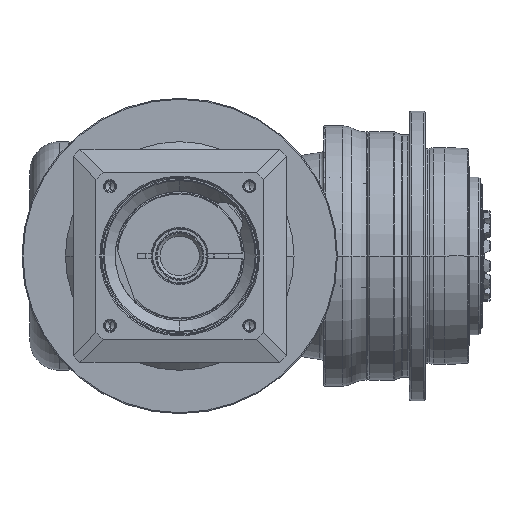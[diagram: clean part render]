
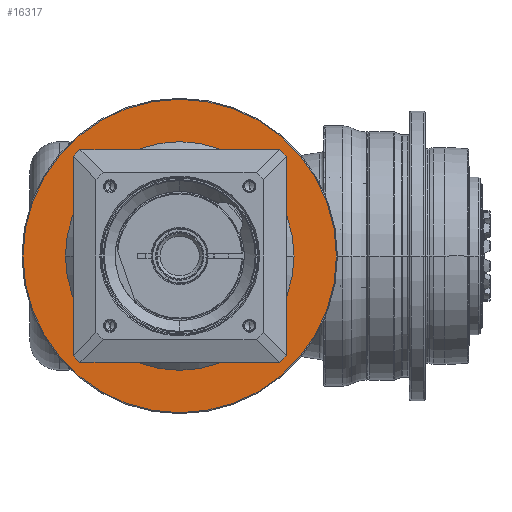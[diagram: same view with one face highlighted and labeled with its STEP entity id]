
A CAD part, front view. The second image highlights one B-rep face of the part: STEP entity #16317.
In plain terms, the highlighted planar face has unit normal (0, -1, 0) as drawn and (1, 0, 0) by its records, which use the part's own axes.
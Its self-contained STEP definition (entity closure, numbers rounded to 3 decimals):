
#15844=CARTESIAN_POINT('',(-4.,0.,
0.));
#15845=DIRECTION('',(-1.,0.,0.));
#15846=DIRECTION('',(0.,1.,0.));
#15847=AXIS2_PLACEMENT_3D('',#15844,#15845,#15846);
#15849=CARTESIAN_POINT('',(-4.,0.,
0.));
#15850=DIRECTION('',(-1.,0.,0.));
#15851=DIRECTION('',(0.,-1.,0.));
#15852=AXIS2_PLACEMENT_3D('',#15849,#15850,#15851);
#15854=CARTESIAN_POINT('',(-4.,0.,0.));
#15855=DIRECTION('',(-1.,0.,0.));
#15856=DIRECTION('',(0.,-1.,0.));
#15857=AXIS2_PLACEMENT_3D('',#15854,#15855,#15856);
#15859=CARTESIAN_POINT('',(-4.,0.,0.));
#15860=DIRECTION('',(-1.,0.,0.));
#15861=DIRECTION('',(0.,1.,0.));
#15862=AXIS2_PLACEMENT_3D('',#15859,#15860,#15861);
#15888=CARTESIAN_POINT('',(-4.,-79.5,0.));
#15889=CARTESIAN_POINT('',(-4.,79.5,0.));
#15890=VERTEX_POINT('',#15888);
#15891=VERTEX_POINT('',#15889);
#15936=CARTESIAN_POINT('',(-4.,58.,0.));
#15937=CARTESIAN_POINT('',(-4.,-58.,
0.));
#15938=VERTEX_POINT('',#15936);
#15939=VERTEX_POINT('',#15937);
#16302=CARTESIAN_POINT('',(-4.,0.,0.));
#16303=DIRECTION('',(1.,0.,0.));
#16304=DIRECTION('',(0.,-1.,0.));
#16305=AXIS2_PLACEMENT_3D('',#16302,#16303,#16304);
#16306=PLANE('',#16305);
#16307=ORIENTED_EDGE('',*,*,#16243,.T.);
#16308=ORIENTED_EDGE('',*,*,#16258,.T.);
#16309=EDGE_LOOP('',(#16307,#16308));
#16310=FACE_OUTER_BOUND('',#16309,.F.);
#16312=ORIENTED_EDGE('',*,*,#16311,.F.);
#16314=ORIENTED_EDGE('',*,*,#16313,.F.);
#16315=EDGE_LOOP('',(#16312,#16314));
#16316=FACE_BOUND('',#16315,.F.);
#16317=ADVANCED_FACE('',(#16310,#16316),#16306,.T.);
#15848=CIRCLE('',#15847,58.);
#15853=CIRCLE('',#15852,58.);
#15858=CIRCLE('',#15857,79.5);
#15863=CIRCLE('',#15862,79.5);
#16243=EDGE_CURVE('',#15890,#15891,#15858,.T.);
#16258=EDGE_CURVE('',#15891,#15890,#15863,.T.);
#16311=EDGE_CURVE('',#15938,#15939,#15848,.T.);
#16313=EDGE_CURVE('',#15939,#15938,#15853,.T.);
